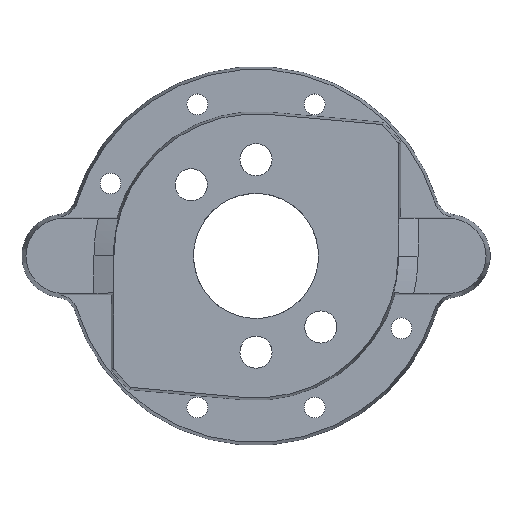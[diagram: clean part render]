
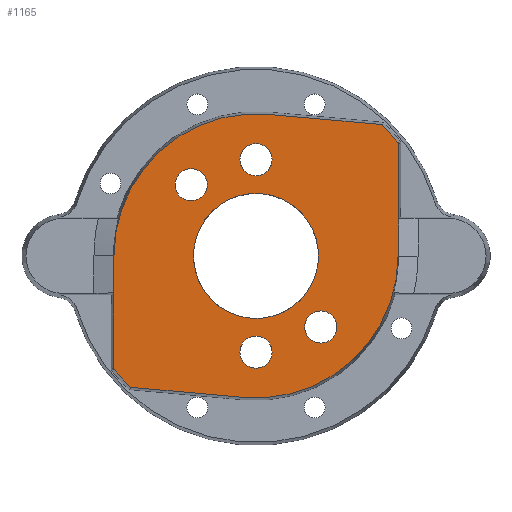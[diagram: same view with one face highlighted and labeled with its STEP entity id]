
A CAD part, top view. The second image highlights one B-rep face of the part: STEP entity #1165.
In plain terms, the highlighted planar face has unit normal (0, 0, 1).
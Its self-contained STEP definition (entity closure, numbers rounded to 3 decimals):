
#52=CIRCLE('',#1222,37.5);
#54=CIRCLE('',#1226,0.5);
#56=CIRCLE('',#1229,48.);
#58=CIRCLE('',#1232,0.5);
#62=CIRCLE('',#1238,37.5);
#64=CIRCLE('',#1242,0.5);
#66=CIRCLE('',#1245,48.);
#68=CIRCLE('',#1248,0.5);
#82=CIRCLE('',#1269,16.5);
#83=CIRCLE('',#1270,4.25);
#84=CIRCLE('',#1271,4.25);
#85=CIRCLE('',#1272,4.25);
#86=CIRCLE('',#1273,4.25);
#238=ORIENTED_EDGE('',*,*,#444,.T.);
#239=ORIENTED_EDGE('',*,*,#394,.F.);
#240=ORIENTED_EDGE('',*,*,#430,.F.);
#241=ORIENTED_EDGE('',*,*,#427,.F.);
#242=ORIENTED_EDGE('',*,*,#424,.F.);
#243=ORIENTED_EDGE('',*,*,#421,.F.);
#244=ORIENTED_EDGE('',*,*,#418,.F.);
#245=ORIENTED_EDGE('',*,*,#415,.F.);
#246=ORIENTED_EDGE('',*,*,#409,.F.);
#247=ORIENTED_EDGE('',*,*,#406,.F.);
#248=ORIENTED_EDGE('',*,*,#403,.F.);
#249=ORIENTED_EDGE('',*,*,#400,.F.);
#250=ORIENTED_EDGE('',*,*,#397,.F.);
#251=ORIENTED_EDGE('',*,*,#445,.T.);
#252=ORIENTED_EDGE('',*,*,#446,.T.);
#253=ORIENTED_EDGE('',*,*,#447,.T.);
#254=ORIENTED_EDGE('',*,*,#448,.T.);
#394=EDGE_CURVE('',#498,#496,#573,.T.);
#397=EDGE_CURVE('',#496,#501,#52,.T.);
#400=EDGE_CURVE('',#501,#503,#575,.T.);
#403=EDGE_CURVE('',#503,#505,#54,.T.);
#406=EDGE_CURVE('',#505,#507,#56,.T.);
#409=EDGE_CURVE('',#507,#509,#58,.T.);
#415=EDGE_CURVE('',#509,#512,#584,.T.);
#418=EDGE_CURVE('',#512,#515,#62,.T.);
#421=EDGE_CURVE('',#515,#517,#586,.T.);
#424=EDGE_CURVE('',#517,#519,#64,.T.);
#427=EDGE_CURVE('',#519,#521,#66,.T.);
#430=EDGE_CURVE('',#521,#498,#68,.T.);
#444=EDGE_CURVE('',#535,#535,#82,.T.);
#445=EDGE_CURVE('',#536,#536,#83,.T.);
#446=EDGE_CURVE('',#537,#537,#84,.T.);
#447=EDGE_CURVE('',#538,#538,#85,.T.);
#448=EDGE_CURVE('',#539,#539,#86,.T.);
#496=VERTEX_POINT('',#1655);
#498=VERTEX_POINT('',#1660);
#501=VERTEX_POINT('',#1668);
#503=VERTEX_POINT('',#1674);
#505=VERTEX_POINT('',#1680);
#507=VERTEX_POINT('',#1686);
#509=VERTEX_POINT('',#1692);
#512=VERTEX_POINT('',#1699);
#515=VERTEX_POINT('',#1709);
#517=VERTEX_POINT('',#1715);
#519=VERTEX_POINT('',#1721);
#521=VERTEX_POINT('',#1727);
#535=VERTEX_POINT('',#1766);
#536=VERTEX_POINT('',#1768);
#537=VERTEX_POINT('',#1770);
#538=VERTEX_POINT('',#1772);
#539=VERTEX_POINT('',#1774);
#573=LINE('',#1661,#623);
#575=LINE('',#1673,#625);
#584=LINE('',#1702,#634);
#586=LINE('',#1714,#636);
#623=VECTOR('',#1389,1000.);
#625=VECTOR('',#1403,1000.);
#634=VECTOR('',#1432,1000.);
#636=VECTOR('',#1446,1000.);
#682=EDGE_LOOP('',(#238));
#683=EDGE_LOOP('',(#239,#240,#241,#242,#243,#244,#245,#246,#247,#248,#249,
#250));
#684=EDGE_LOOP('',(#251));
#685=EDGE_LOOP('',(#252));
#686=EDGE_LOOP('',(#253));
#687=EDGE_LOOP('',(#254));
#760=FACE_BOUND('',#682,.T.);
#761=FACE_BOUND('',#683,.T.);
#762=FACE_BOUND('',#684,.T.);
#763=FACE_BOUND('',#685,.T.);
#764=FACE_BOUND('',#686,.T.);
#765=FACE_BOUND('',#687,.T.);
#810=PLANE('',#1268);
#1165=ADVANCED_FACE('',(#760,#761,#762,#763,#764,#765),#810,.F.);
#1222=AXIS2_PLACEMENT_3D('',#1667,#1396,#1397);
#1226=AXIS2_PLACEMENT_3D('',#1679,#1408,#1409);
#1229=AXIS2_PLACEMENT_3D('',#1685,#1415,#1416);
#1232=AXIS2_PLACEMENT_3D('',#1691,#1422,#1423);
#1238=AXIS2_PLACEMENT_3D('',#1708,#1439,#1440);
#1242=AXIS2_PLACEMENT_3D('',#1720,#1451,#1452);
#1245=AXIS2_PLACEMENT_3D('',#1726,#1458,#1459);
#1248=AXIS2_PLACEMENT_3D('',#1732,#1465,#1466);
#1268=AXIS2_PLACEMENT_3D('',#1764,#1505,#1506);
#1269=AXIS2_PLACEMENT_3D('',#1765,#1507,#1508);
#1270=AXIS2_PLACEMENT_3D('',#1767,#1509,#1510);
#1271=AXIS2_PLACEMENT_3D('',#1769,#1511,#1512);
#1272=AXIS2_PLACEMENT_3D('',#1771,#1513,#1514);
#1273=AXIS2_PLACEMENT_3D('',#1773,#1515,#1516);
#1389=DIRECTION('',(0.002,1.,0.));
#1396=DIRECTION('',(0.,0.,-1.));
#1397=DIRECTION('',(1.,0.,0.));
#1403=DIRECTION('',(0.996,-0.09,0.));
#1408=DIRECTION('',(0.,0.,-1.));
#1409=DIRECTION('',(1.,0.,0.));
#1415=DIRECTION('',(0.,0.,-1.));
#1416=DIRECTION('',(1.,0.,0.));
#1422=DIRECTION('',(0.,0.,-1.));
#1423=DIRECTION('',(-1.,0.,0.));
#1432=DIRECTION('',(-0.002,-1.,0.));
#1439=DIRECTION('',(0.,0.,-1.));
#1440=DIRECTION('',(1.,0.,0.));
#1446=DIRECTION('',(-0.996,0.09,0.));
#1451=DIRECTION('',(0.,0.,-1.));
#1452=DIRECTION('',(1.,0.,0.));
#1458=DIRECTION('',(0.,0.,-1.));
#1459=DIRECTION('',(1.,0.,0.));
#1465=DIRECTION('',(0.,0.,-1.));
#1466=DIRECTION('',(1.,0.,0.));
#1505=DIRECTION('',(0.,0.,-1.));
#1506=DIRECTION('',(0.,-1.,0.));
#1507=DIRECTION('',(0.,0.,-1.));
#1508=DIRECTION('',(-0.996,0.09,0.));
#1509=DIRECTION('',(0.,0.,-1.));
#1510=DIRECTION('',(0.,-1.,0.));
#1511=DIRECTION('',(0.,0.,-1.));
#1512=DIRECTION('',(0.,-1.,0.));
#1513=DIRECTION('',(0.,0.,-1.));
#1514=DIRECTION('',(0.,-1.,0.));
#1515=DIRECTION('',(0.,0.,-1.));
#1516=DIRECTION('',(0.,-1.,0.));
#1655=CARTESIAN_POINT('',(-37.5,0.092,15.5));
#1660=CARTESIAN_POINT('',(-37.573,-29.695,15.5));
#1661=CARTESIAN_POINT('',(-37.5,0.092,15.5));
#1667=CARTESIAN_POINT('',(0.,0.,15.5));
#1668=CARTESIAN_POINT('',(3.36,37.349,15.5));
#1673=CARTESIAN_POINT('',(-15.244,39.023,15.5));
#1674=CARTESIAN_POINT('',(33.027,34.681,15.5));
#1679=CARTESIAN_POINT('',(32.982,34.183,15.5));
#1680=CARTESIAN_POINT('',(33.329,34.542,15.5));
#1685=CARTESIAN_POINT('',(0.,0.,15.5));
#1686=CARTESIAN_POINT('',(37.463,30.009,15.5));
#1691=CARTESIAN_POINT('',(37.073,29.696,15.5));
#1692=CARTESIAN_POINT('',(37.573,29.695,15.5));
#1699=CARTESIAN_POINT('',(37.5,-0.092,15.5));
#1702=CARTESIAN_POINT('',(37.5,-0.092,15.5));
#1708=CARTESIAN_POINT('',(0.,0.,15.5));
#1709=CARTESIAN_POINT('',(-3.36,-37.349,15.5));
#1714=CARTESIAN_POINT('',(-21.963,-35.676,15.5));
#1715=CARTESIAN_POINT('',(-33.027,-34.681,15.5));
#1720=CARTESIAN_POINT('',(-32.982,-34.183,15.5));
#1721=CARTESIAN_POINT('',(-33.329,-34.542,15.5));
#1726=CARTESIAN_POINT('',(0.,0.,15.5));
#1727=CARTESIAN_POINT('',(-37.463,-30.009,15.5));
#1732=CARTESIAN_POINT('',(-37.073,-29.696,15.5));
#1764=CARTESIAN_POINT('',(0.,0.,15.5));
#1765=CARTESIAN_POINT('',(0.,0.,15.5));
#1766=CARTESIAN_POINT('',(-16.434,1.478,15.5));
#1767=CARTESIAN_POINT('',(-17.114,18.769,15.5));
#1768=CARTESIAN_POINT('',(-17.114,14.519,15.5));
#1769=CARTESIAN_POINT('',(17.114,-18.769,15.5));
#1770=CARTESIAN_POINT('',(17.114,-23.019,15.5));
#1771=CARTESIAN_POINT('',(0.,-25.4,15.5));
#1772=CARTESIAN_POINT('',(0.,-29.65,15.5));
#1773=CARTESIAN_POINT('',(0.,25.4,15.5));
#1774=CARTESIAN_POINT('',(0.,21.15,15.5));
